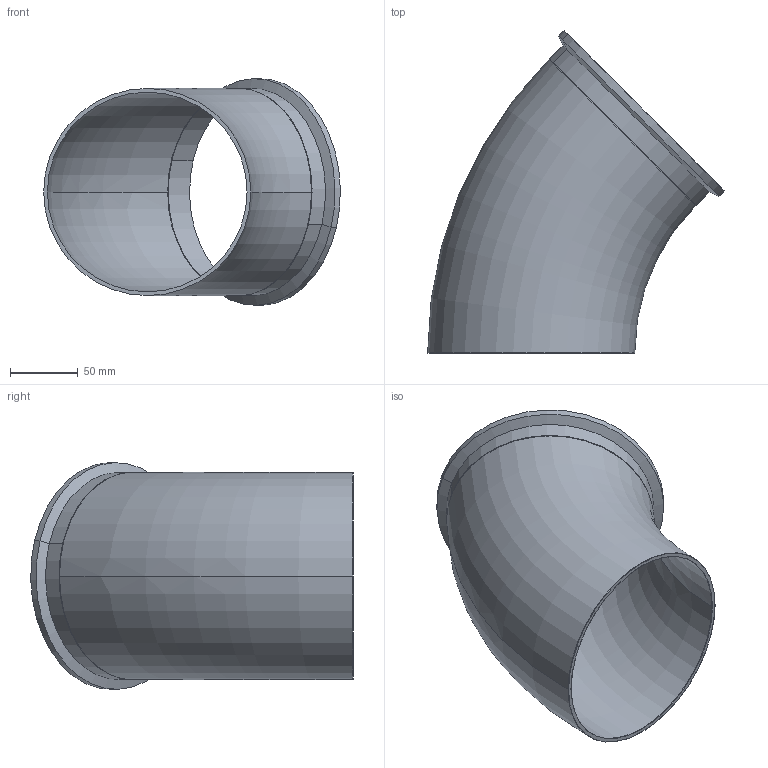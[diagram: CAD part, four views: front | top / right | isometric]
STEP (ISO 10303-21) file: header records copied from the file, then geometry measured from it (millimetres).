
FILE_DESCRIPTION (( 'STEP AP203' ), '1' );
FILE_NAME ('E2KC6.0.STEP', '2018-04-30T15:41:12', ( 'vneprd' ), ( 'Microsoft' ), 'SwSTEP 2.0', 'SolidWorks 2014', '' );
FILE_SCHEMA (( 'CONFIG_CONTROL_DESIGN' ));
Length unit declared in the file: inch
Products named in the file (1): E2KC6.0
Bounding box: 218.23 x 237.28 x 166.79 mm (x, y, z)
Volume: 287882.4 mm3; surface area: 202912.7 mm2
Topology: 2 solids, 2 shells, 31 faces, 66 edges, 40 vertices
Faces by surface type: cylinder 14, torus 10, plane 5, cone 2
Entity records: 939 total; most frequent: DIRECTION 180, CARTESIAN_POINT 138, ORIENTED_EDGE 132, AXIS2_PLACEMENT_3D 82, EDGE_CURVE 66, CIRCLE 50, VERTEX_POINT 40, EDGE_LOOP 36
